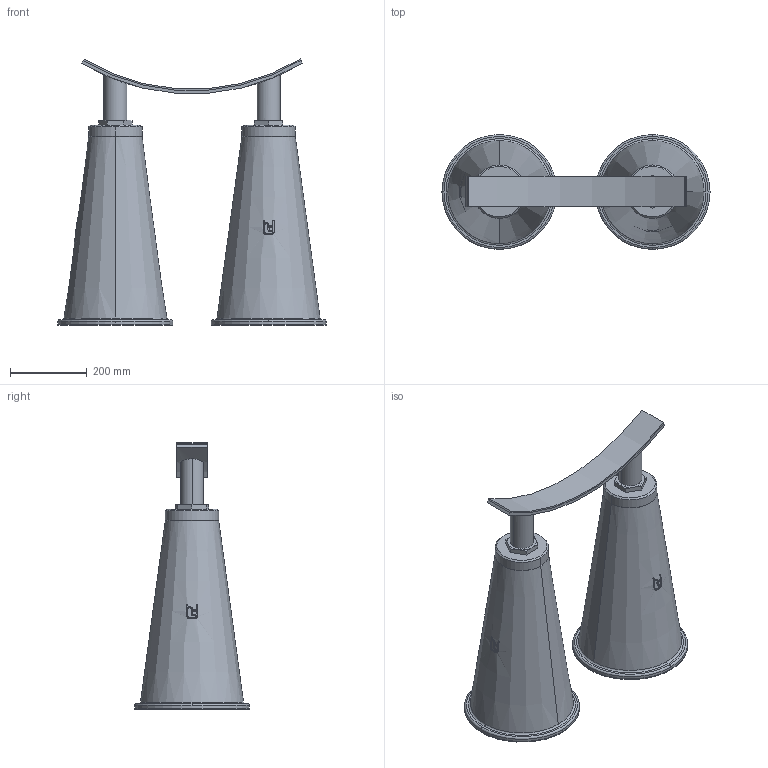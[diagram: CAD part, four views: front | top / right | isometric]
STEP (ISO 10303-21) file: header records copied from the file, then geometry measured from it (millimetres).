
FILE_DESCRIPTION(('STEP AP214'),'1');
FILE_NAME('RSRFC-DUO_DN1100.stp','2018-06-27T11:55:51',(' '),(' '),'Spatial InterOp 3D',' ',' ');
FILE_SCHEMA(('automotive_design'));
Length unit declared in the file: millimetre
Products named in the file (10): 1; 2; 3; 4; 5; 6; 7; 8; 9; 10
Bounding box: 700 x 300 x 694.87 mm (x, y, z)
Volume: 37997385.9 mm3; surface area: 1608649.2 mm2
Topology: 10 solids, 12 shells, 204 faces, 504 edges, 332 vertices
Faces by surface type: plane 82, cylinder 76, cone 38, torus 8
Entity records: 9795 total; most frequent: CARTESIAN_POINT 3154, ORIENTED_EDGE 1008, DIRECTION 998, EDGE_CURVE 504, AXIS2_PLACEMENT_3D 388, VERTEX_POINT 332, LINE 222, VECTOR 222
